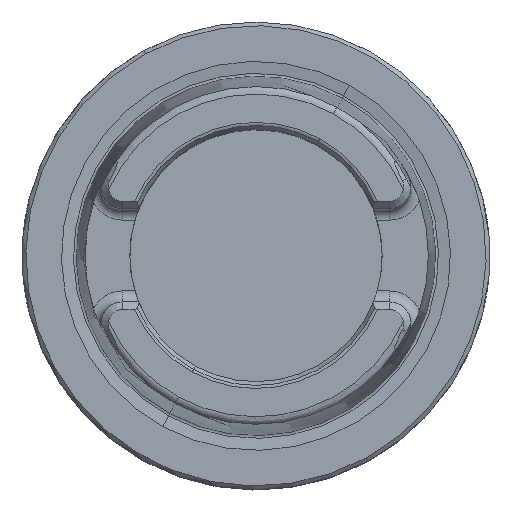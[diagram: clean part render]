
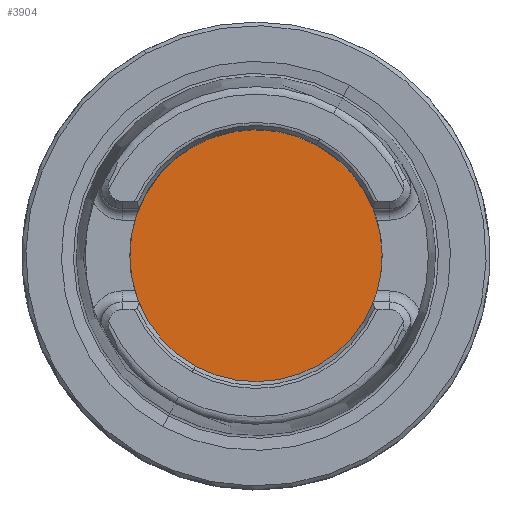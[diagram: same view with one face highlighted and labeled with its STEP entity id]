
A CAD part, top view. The second image highlights one B-rep face of the part: STEP entity #3904.
In plain terms, the highlighted planar face has unit normal (0, 0, 1).
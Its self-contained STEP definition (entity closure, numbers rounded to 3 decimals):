
#3862=AXIS2_PLACEMENT_3D('Circle Axis2P3D',#3860,#3861,$) ;
#3893=AXIS2_PLACEMENT_3D('Plane Axis2P3D',#3890,#3891,#3892) ;
#3897=AXIS2_PLACEMENT_3D('Circle Axis2P3D',#3895,#3896,$) ;
#3857=CARTESIAN_POINT('Vertex',(8.15,14.919,-10.)) ;
#3860=CARTESIAN_POINT('Axis2P3D Location',(0.,0.,-10.)) ;
#3864=CARTESIAN_POINT('Vertex',(-8.15,-14.919,-10.)) ;
#3890=CARTESIAN_POINT('Axis2P3D Location',(0.,-15.75,-10.)) ;
#3895=CARTESIAN_POINT('Axis2P3D Location',(0.,0.,-10.)) ;
#3861=DIRECTION('Axis2P3D Direction',(0.,0.,-1.)) ;
#3891=DIRECTION('Axis2P3D Direction',(0.,0.,-1.)) ;
#3892=DIRECTION('Axis2P3D XDirection',(-1.,0.,0.)) ;
#3896=DIRECTION('Axis2P3D Direction',(0.,0.,-1.)) ;
#3901=ORIENTED_EDGE('',*,*,#3899,.T.) ;
#3902=ORIENTED_EDGE('',*,*,#3866,.T.) ;
#3904=ADVANCED_FACE('NO_CUT',(#3903),#3894,.F.) ;
#3863=CIRCLE('generated circle',#3862,17.) ;
#3898=CIRCLE('generated circle',#3897,17.) ;
#3866=EDGE_CURVE('',#3865,#3858,#3863,.F.) ;
#3899=EDGE_CURVE('',#3858,#3865,#3898,.F.) ;
#3900=EDGE_LOOP('',(#3901,#3902)) ;
#3903=FACE_OUTER_BOUND('',#3900,.T.) ;
#3894=PLANE('',#3893) ;
#3858=VERTEX_POINT('',#3857) ;
#3865=VERTEX_POINT('',#3864) ;
